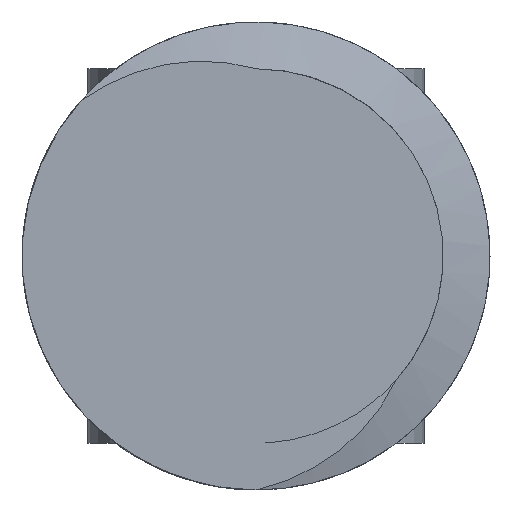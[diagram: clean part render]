
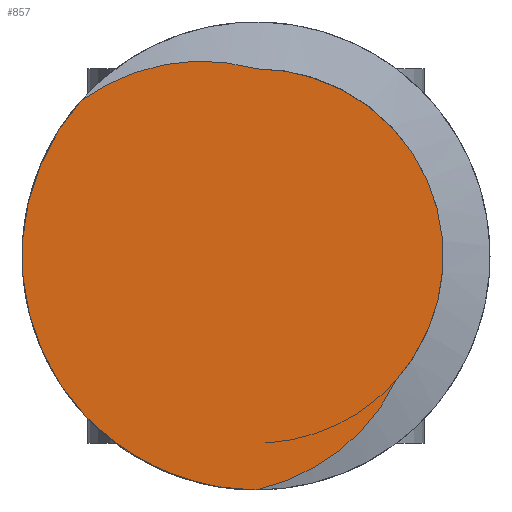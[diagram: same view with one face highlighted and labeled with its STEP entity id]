
A CAD part, left-side view. The second image highlights one B-rep face of the part: STEP entity #857.
In plain terms, the highlighted planar face has unit normal (-1, 0, 0).
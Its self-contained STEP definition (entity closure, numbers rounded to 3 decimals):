
#143=PLANE('',#924);
#163=B_SPLINE_CURVE_WITH_KNOTS('',3,(#1630,#1631,#1632,#1633,#1634),
 .UNSPECIFIED.,.F.,.F.,(4,1,4),(0.,0.002,
0.004),.UNSPECIFIED.);
#164=B_SPLINE_CURVE_WITH_KNOTS('',3,(#1635,#1636,#1637,#1638),
 .UNSPECIFIED.,.F.,.F.,(4,4),(0.,0.004),
 .UNSPECIFIED.);
#166=CIRCLE('',#919,5.);
#169=CIRCLE('',#925,4.);
#235=ORIENTED_EDGE('',*,*,#489,.T.);
#236=ORIENTED_EDGE('',*,*,#490,.T.);
#237=ORIENTED_EDGE('',*,*,#483,.T.);
#238=ORIENTED_EDGE('',*,*,#491,.T.);
#483=EDGE_CURVE('',#609,#611,#166,.T.);
#489=EDGE_CURVE('',#616,#617,#169,.T.);
#490=EDGE_CURVE('',#617,#609,#163,.T.);
#491=EDGE_CURVE('',#611,#616,#164,.T.);
#609=VERTEX_POINT('',#1444);
#611=VERTEX_POINT('',#1588);
#616=VERTEX_POINT('',#1628);
#617=VERTEX_POINT('',#1629);
#705=EDGE_LOOP('',(#235,#236,#237,#238));
#767=FACE_BOUND('',#705,.T.);
#857=ADVANCED_FACE('',(#767),#143,.F.);
#919=AXIS2_PLACEMENT_3D('',#1589,#1030,#1031);
#924=AXIS2_PLACEMENT_3D('',#1626,#1040,#1041);
#925=AXIS2_PLACEMENT_3D('',#1627,#1042,#1043);
#1030=DIRECTION('',(-1.,0.,0.));
#1031=DIRECTION('',(0.,0.,1.));
#1040=DIRECTION('',(1.,0.,0.));
#1041=DIRECTION('',(0.,0.,-1.));
#1042=DIRECTION('',(-1.,0.,0.));
#1043=DIRECTION('',(0.,0.,1.));
#1444=CARTESIAN_POINT('',(0.,3.733,3.326));
#1588=CARTESIAN_POINT('',(0.,0.,-5.));
#1589=CARTESIAN_POINT('',(0.,0.,0.));
#1626=CARTESIAN_POINT('',(0.,0.,0.));
#1627=CARTESIAN_POINT('',(0.,0.,0.));
#1628=CARTESIAN_POINT('',(0.,-2.987,-2.66));
#1629=CARTESIAN_POINT('',(0.,-0.001,4.));
#1630=CARTESIAN_POINT('',(0.,-0.001,4.));
#1631=CARTESIAN_POINT('',(0.,0.633,4.182));
#1632=CARTESIAN_POINT('',(0.,1.967,4.241));
#1633=CARTESIAN_POINT('',(0.,3.192,3.702));
#1634=CARTESIAN_POINT('',(0.,3.733,3.326));
#1635=CARTESIAN_POINT('',(0.,0.,-5.));
#1636=CARTESIAN_POINT('',(0.,-1.286,-4.705));
#1637=CARTESIAN_POINT('',(0.,-2.43,-3.857));
#1638=CARTESIAN_POINT('',(0.,-2.987,-2.66));
